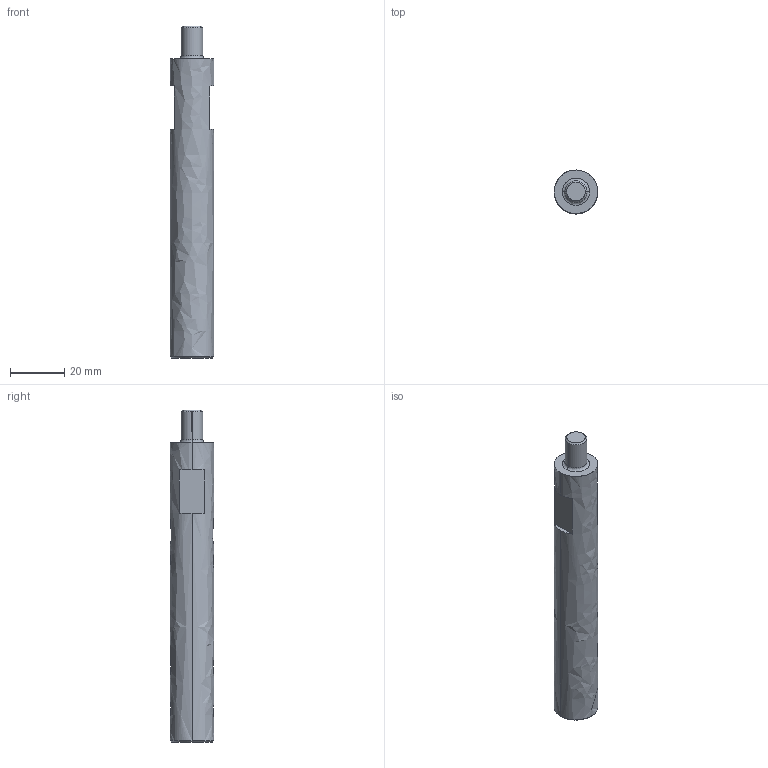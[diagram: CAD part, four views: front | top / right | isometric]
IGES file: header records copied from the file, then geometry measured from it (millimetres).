
Global section: file name: E:\UnigraphicsGraphicData\MISUMI_PRESS-PARTS\IGES\3d_mcup16-110_01355_r00.igs; native system: NX V5.0; preprocessor: UGS NX IGES V5.0; author: MISUMI; date: 20110105.161308; units: millimetre
Bounding box: 16 x 16 x 122 mm (x, y, z)
Surface area: 6217.4 mm2 (no closed solid volume)
Topology: 0 solids, 0 shells, 19 faces, 108 edges, 108 vertices
Faces by surface type: bspline 19
